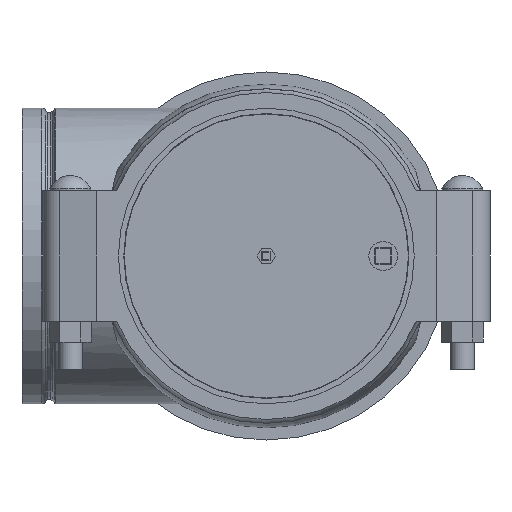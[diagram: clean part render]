
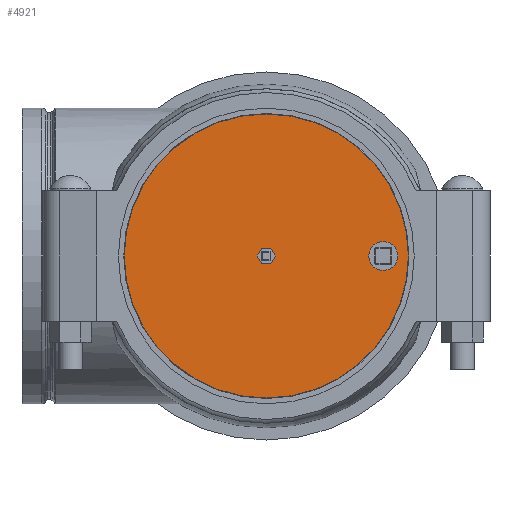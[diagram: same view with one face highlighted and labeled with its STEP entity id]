
A CAD part, left-side view. The second image highlights one B-rep face of the part: STEP entity #4921.
In plain terms, the highlighted planar face has unit normal (-1, 0, 0).
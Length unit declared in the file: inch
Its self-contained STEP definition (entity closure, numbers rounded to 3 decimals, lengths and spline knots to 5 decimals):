
#148=FACE_BOUND('',#1658,.T.);
#149=FACE_BOUND('',#1659,.T.);
#208=PLANE('',#5508);
#551=CIRCLE('',#5507,0.525);
#552=CIRCLE('',#5509,5.16319);
#553=CIRCLE('',#5510,5.16319);
#830=LINE('',#8238,#1053);
#833=LINE('',#8243,#1056);
#835=LINE('',#8247,#1058);
#837=LINE('',#8251,#1060);
#839=LINE('',#8255,#1062);
#841=LINE('',#8258,#1064);
#1053=VECTOR('',#6599,0.3937);
#1056=VECTOR('',#6604,0.3937);
#1058=VECTOR('',#6608,0.3937);
#1060=VECTOR('',#6612,0.3937);
#1062=VECTOR('',#6616,0.3937);
#1064=VECTOR('',#6620,0.3937);
#1398=FACE_OUTER_BOUND('',#1657,.T.);
#1657=EDGE_LOOP('',(#3710,#3711));
#1658=EDGE_LOOP('',(#3712,#3713,#3714,#3715,#3716,#3717));
#1659=EDGE_LOOP('',(#3718));
#2048=VERTEX_POINT('',#8236);
#2049=VERTEX_POINT('',#8237);
#2050=VERTEX_POINT('',#8242);
#2051=VERTEX_POINT('',#8246);
#2052=VERTEX_POINT('',#8250);
#2053=VERTEX_POINT('',#8254);
#2054=VERTEX_POINT('',#8260);
#2055=VERTEX_POINT('',#8264);
#2056=VERTEX_POINT('',#8265);
#2650=EDGE_CURVE('',#2048,#2049,#830,.T.);
#2653=EDGE_CURVE('',#2049,#2050,#833,.T.);
#2655=EDGE_CURVE('',#2050,#2051,#835,.T.);
#2657=EDGE_CURVE('',#2051,#2052,#837,.T.);
#2659=EDGE_CURVE('',#2052,#2053,#839,.T.);
#2661=EDGE_CURVE('',#2053,#2048,#841,.T.);
#2663=EDGE_CURVE('',#2054,#2054,#551,.T.);
#2664=EDGE_CURVE('',#2055,#2056,#552,.T.);
#2665=EDGE_CURVE('',#2056,#2055,#553,.T.);
#3710=ORIENTED_EDGE('',*,*,#2664,.F.);
#3711=ORIENTED_EDGE('',*,*,#2665,.F.);
#3712=ORIENTED_EDGE('',*,*,#2650,.T.);
#3713=ORIENTED_EDGE('',*,*,#2653,.T.);
#3714=ORIENTED_EDGE('',*,*,#2655,.T.);
#3715=ORIENTED_EDGE('',*,*,#2657,.T.);
#3716=ORIENTED_EDGE('',*,*,#2659,.T.);
#3717=ORIENTED_EDGE('',*,*,#2661,.T.);
#3718=ORIENTED_EDGE('',*,*,#2663,.T.);
#4921=ADVANCED_FACE('',(#1398,#148,#149),#208,.T.);
#5507=AXIS2_PLACEMENT_3D('',#8262,#6624,#6625);
#5508=AXIS2_PLACEMENT_3D('',#8263,#6626,#6627);
#5509=AXIS2_PLACEMENT_3D('',#8266,#6628,#6629);
#5510=AXIS2_PLACEMENT_3D('',#8267,#6630,#6631);
#6599=DIRECTION('',(0.,-1.,0.));
#6604=DIRECTION('',(0.,-0.5,-0.866));
#6608=DIRECTION('',(0.,0.5,-0.866));
#6612=DIRECTION('',(0.,1.,0.));
#6616=DIRECTION('',(0.,0.5,0.866));
#6620=DIRECTION('',(0.,-0.5,0.866));
#6624=DIRECTION('center_axis',(1.,0.,0.));
#6625=DIRECTION('ref_axis',(0.,0.,-1.));
#6626=DIRECTION('center_axis',(-1.,0.,0.));
#6627=DIRECTION('ref_axis',(0.,0.,1.));
#6628=DIRECTION('center_axis',(1.,0.,0.));
#6629=DIRECTION('ref_axis',(0.,0.,-1.));
#6630=DIRECTION('center_axis',(1.,0.,0.));
#6631=DIRECTION('ref_axis',(0.,0.,-1.));
#8236=CARTESIAN_POINT('',(-0.39,0.16599,0.2875));
#8237=CARTESIAN_POINT('',(-0.39,-0.16599,0.2875));
#8238=CARTESIAN_POINT('',(-0.39,2.4986,0.2875));
#8242=CARTESIAN_POINT('',(-0.39,-0.33198,0.));
#8243=CARTESIAN_POINT('',(-0.39,0.35492,1.18974));
#8246=CARTESIAN_POINT('',(-0.39,-0.16599,-0.2875));
#8247=CARTESIAN_POINT('',(-0.39,0.43791,-1.33349));
#8250=CARTESIAN_POINT('',(-0.39,0.16599,-0.2875));
#8251=CARTESIAN_POINT('',(-0.39,2.66459,-0.2875));
#8254=CARTESIAN_POINT('',(-0.39,0.33198,0.));
#8255=CARTESIAN_POINT('',(-0.39,0.93588,1.04599));
#8258=CARTESIAN_POINT('',(-0.39,0.85288,-0.90224));
#8260=CARTESIAN_POINT('',(-0.39,-4.25,0.525));
#8262=CARTESIAN_POINT('Origin',(-0.39,-4.25,0.));
#8263=CARTESIAN_POINT('Origin',(-0.39,5.16319,0.));
#8264=CARTESIAN_POINT('',(-0.39,5.16319,0.));
#8265=CARTESIAN_POINT('',(-0.39,-5.16319,0.));
#8266=CARTESIAN_POINT('Origin',(-0.39,0.,0.));
#8267=CARTESIAN_POINT('Origin',(-0.39,0.,0.));
